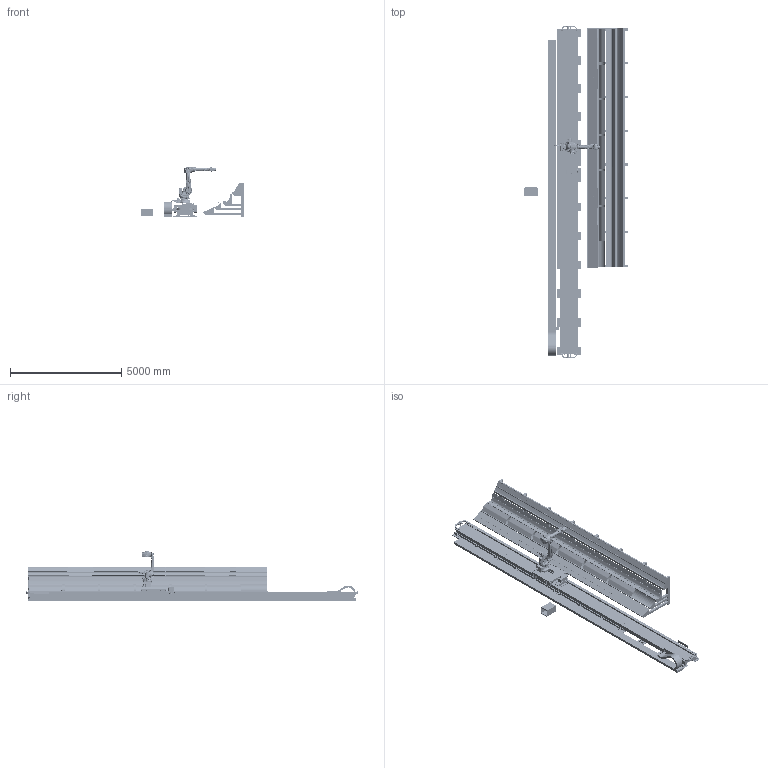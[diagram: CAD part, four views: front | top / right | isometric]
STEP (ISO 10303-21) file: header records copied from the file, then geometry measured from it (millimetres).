
FILE_DESCRIPTION(/* description */ (''),/* implementation_level */ '2;1');
FILE_NAME(/* name */ 'lineartrack_roboter.step',/* time_stamp */ '2024-07-02T12:24:23+02:00',/* author */ (''),/* organization */ (''),/* preprocessor_version */ 'ST-DEVELOPER v20',/* originating_system */ 'Autodesk Translation Framework v13.14.0.145',/* authorisation */ '');
FILE_SCHEMA (('AUTOMOTIVE_DESIGN { 1 0 10303 214 3 1 1 }'));
Products named in the file (16): gesamte bearbeitung_robot; Komponente1; Komponente2; Komponente3; Komponente4; Komponente5; Komponente6; Komponente7; Komponente8; Komponente9; Komponente10; Komponente11; Komponente12; Komponente13; gesamte bearbeitung_robot v2; 5002_0-0500_as1_st_13000_lw1ak0000_1
Assembly tree (15 placements, depth 2):
  gesamte bearbeitung_robot
    Komponente1
    Komponente2
    Komponente3
    Komponente4
    Komponente5
    Komponente6
    Komponente7
    Komponente8
    Komponente9
    Komponente10
    Komponente11
    Komponente12
    Komponente13
    gesamte bearbeitung_robot v2
    5002_0-0500_as1_st_13000_lw1ak0000_1
Bounding box: 4658 x 14904.2 x 2247.99 mm (x, y, z)
Volume: 5904098624.6 mm3; surface area: 234341322 mm2
Topology: 77 solids, 107 shells, 14770 faces, 43002 edges, 27409 vertices
Faces by surface type: cylinder 4636, plane 4580, bspline 3903, torus 830, cone 692, sphere 129
Full cylindrical faces by diameter (mm): 3 x1, 3.2 x2, 4.2 x26, 4.5 x3, 4.8 x2, 5 x28, 5.5 x31, 5.8 x4, 6 x57, 6.4 x12, 6.5 x3, 6.8 x2, 7 x1382, 8 x36, 8.4 x6, 8.5 x21, 8.7 x1, 8.889 x1, 9 x38, 9.2 x1, 9.8 x4, 10 x137, 11 x5, 11.05 x2, 12 x12, 12.5 x25, 13 x36, 13.157 x2, 13.8 x1, 14 x20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
Entity records: 885508 total; most frequent: CARTESIAN_POINT 514736, ORIENTED_EDGE 85500, DIRECTION 66078, EDGE_CURVE 42750, VERTEX_POINT 27411, AXIS2_PLACEMENT_3D 24880, EDGE_LOOP 17416, LINE 16318
